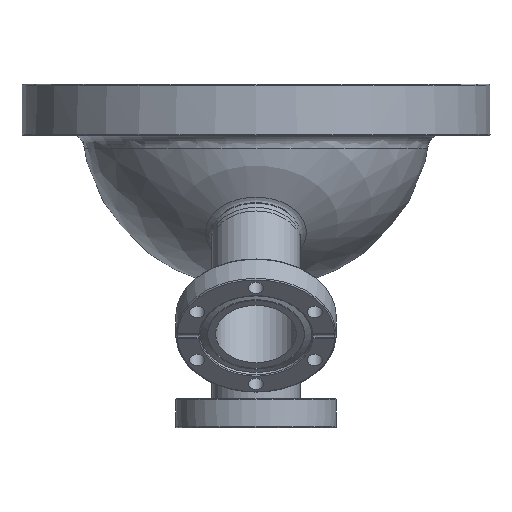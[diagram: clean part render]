
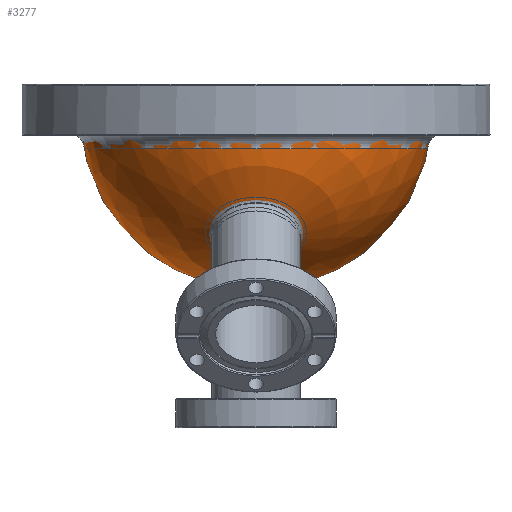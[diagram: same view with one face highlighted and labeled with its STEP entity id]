
A CAD part, front view. The second image highlights one B-rep face of the part: STEP entity #3277.
In plain terms, the highlighted spherical face has radius 76.2 mm.
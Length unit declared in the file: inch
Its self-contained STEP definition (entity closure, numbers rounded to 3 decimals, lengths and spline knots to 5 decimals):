
#81=SPHERICAL_SURFACE('',#3756,3.);
#178=FACE_BOUND('',#789,.T.);
#179=FACE_BOUND('',#790,.T.);
#486=FACE_OUTER_BOUND('',#788,.T.);
#788=EDGE_LOOP('',(#2916,#2917,#2918,#2919,#2920));
#789=EDGE_LOOP('',(#2921));
#790=EDGE_LOOP('',(#2922));
#1311=CIRCLE('',#3757,0.75);
#1312=CIRCLE('',#3758,3.);
#1313=CIRCLE('',#3759,3.);
#1314=CIRCLE('',#3760,0.75);
#1315=CIRCLE('',#3761,0.75);
#1316=CIRCLE('',#3762,0.75);
#1589=VERTEX_POINT('',#7348);
#1590=VERTEX_POINT('',#7349);
#1591=VERTEX_POINT('',#7351);
#1592=VERTEX_POINT('',#7355);
#1593=VERTEX_POINT('',#7357);
#2037=EDGE_CURVE('',#1589,#1590,#1311,.T.);
#2038=EDGE_CURVE('',#1589,#1591,#1312,.T.);
#2039=EDGE_CURVE('',#1591,#1591,#1313,.T.);
#2040=EDGE_CURVE('',#1590,#1589,#1314,.T.);
#2041=EDGE_CURVE('',#1592,#1592,#1315,.T.);
#2042=EDGE_CURVE('',#1593,#1593,#1316,.T.);
#2916=ORIENTED_EDGE('',*,*,#2037,.F.);
#2917=ORIENTED_EDGE('',*,*,#2038,.T.);
#2918=ORIENTED_EDGE('',*,*,#2039,.T.);
#2919=ORIENTED_EDGE('',*,*,#2038,.F.);
#2920=ORIENTED_EDGE('',*,*,#2040,.F.);
#2921=ORIENTED_EDGE('',*,*,#2041,.F.);
#2922=ORIENTED_EDGE('',*,*,#2042,.F.);
#3277=ADVANCED_FACE('',(#486,#178,#179),#81,.T.);
#3756=AXIS2_PLACEMENT_3D('',#7347,#4810,#4811);
#3757=AXIS2_PLACEMENT_3D('',#7350,#4812,#4813);
#3758=AXIS2_PLACEMENT_3D('',#7352,#4814,#4815);
#3759=AXIS2_PLACEMENT_3D('',#7353,#4816,#4817);
#3760=AXIS2_PLACEMENT_3D('',#7354,#4818,#4819);
#3761=AXIS2_PLACEMENT_3D('',#7356,#4820,#4821);
#3762=AXIS2_PLACEMENT_3D('',#7358,#4822,#4823);
#4810=DIRECTION('center_axis',(0.,-0.707,
-0.707));
#4811=DIRECTION('ref_axis',(1.,0.,0.));
#4812=DIRECTION('center_axis',(0.,-0.707,
-0.707));
#4813=DIRECTION('ref_axis',(-1.,0.,0.));
#4814=DIRECTION('center_axis',(0.,0.707,-0.707));
#4815=DIRECTION('ref_axis',(-1.,0.,0.));
#4816=DIRECTION('center_axis',(0.,0.,-1.));
#4817=DIRECTION('ref_axis',(0.,-1.,0.));
#4818=DIRECTION('center_axis',(0.,-0.707,
-0.707));
#4819=DIRECTION('ref_axis',(-1.,0.,0.));
#4820=DIRECTION('center_axis',(0.,0.707,
-0.707));
#4821=DIRECTION('ref_axis',(-1.,0.,0.));
#4822=DIRECTION('center_axis',(0.,0.,
-1.));
#4823=DIRECTION('ref_axis',(-1.,0.,0.));
#7347=CARTESIAN_POINT('Origin',(0.,-4.71,0.));
#7348=CARTESIAN_POINT('',(-0.75,-6.76396,-2.05396));
#7349=CARTESIAN_POINT('',(0.75,-6.76396,-2.05396));
#7350=CARTESIAN_POINT('Origin',(0.,-6.76396,
-2.05396));
#7351=CARTESIAN_POINT('',(-2.99999,-4.70467,0.00533));
#7352=CARTESIAN_POINT('Origin',(0.,-4.71,0.));
#7353=CARTESIAN_POINT('Origin',(0.,-4.71,0.00533));
#7354=CARTESIAN_POINT('Origin',(0.,-6.76396,
-2.05396));
#7355=CARTESIAN_POINT('',(0.75,-2.65604,-2.05396));
#7356=CARTESIAN_POINT('Origin',(0.,-2.65604,
-2.05396));
#7357=CARTESIAN_POINT('',(0.75,-4.71,-2.90474));
#7358=CARTESIAN_POINT('Origin',(0.,-4.71,-2.90474));
